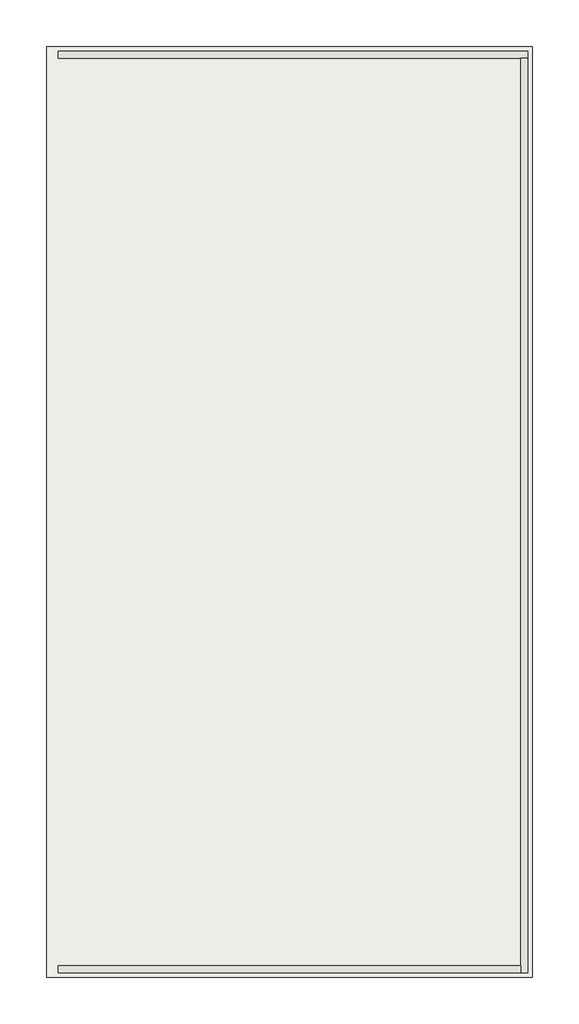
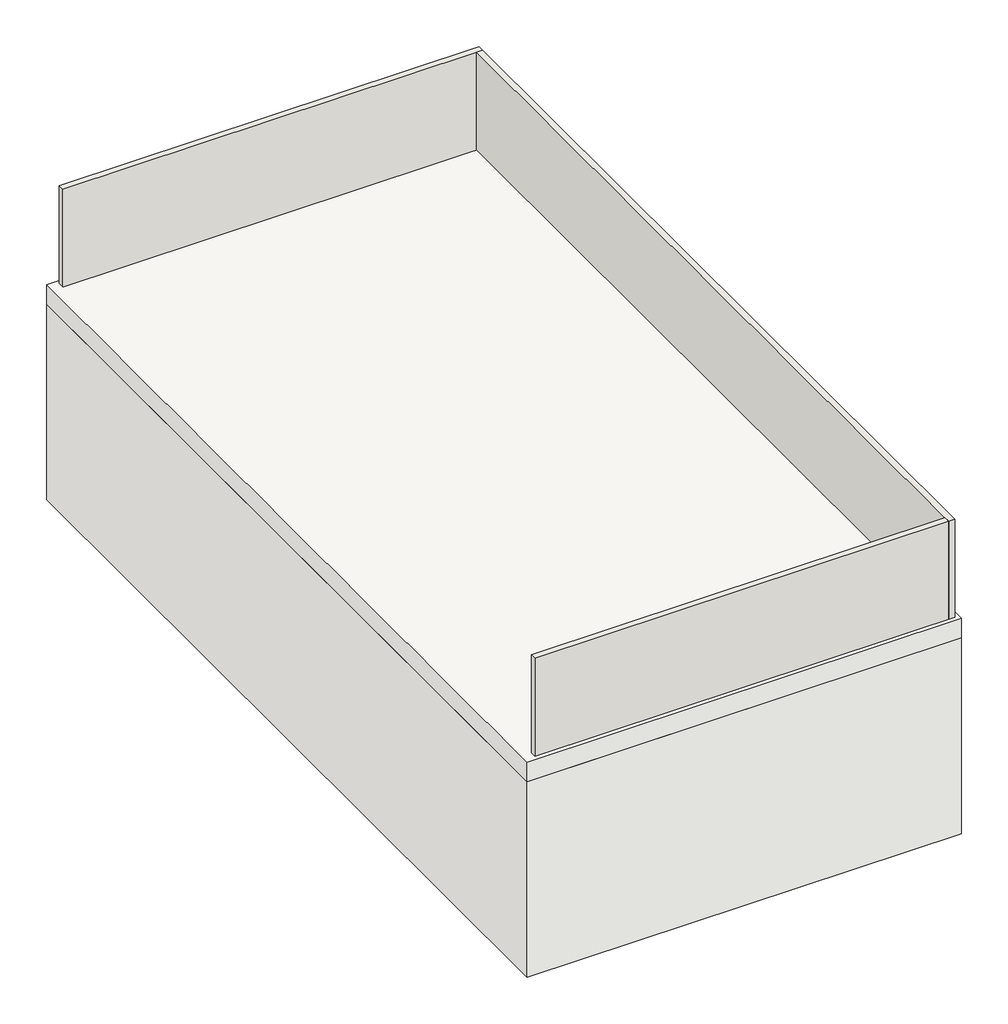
# One storey: 3 walls, 2 slabs.
"""IFC4 building model written with IfcOpenShell, lengths in millimetres."""

from ifc_helpers import new_model, si_unit, frame, origin, place, context, project, spatial, polyline, outline, extrude, faceted_brep, element, save

model = new_model("IFC4")

# Units and contexts
model_context = context("Model", 3, world=origin())
ifc_project = project(units=[si_unit("LENGTHUNIT", "METRE", prefix="MILLI")], contexts=[model_context])

# Site, building, storey
site = spatial("IfcSite", under=ifc_project)
building = spatial("IfcBuilding", under=site)
storey = spatial("IfcBuildingStorey", under=building, Name="- 2 - Sotto platea", Elevation=-3000.0)

# Slabs
placement = place(None, origin())
element("IfcSlab", 1, ObjectType="Magrone - 10 cm", at=placement, inside=storey, context=model_context, shape_type="SweptSolid", body=[
    extrude(outline(polyline([(1797.3707384, -11657.4457024), (1797.3707384, -15680.7761472), (-302.6292616, -15680.7761472), (-302.6292616, -11657.4457024), (1797.3707384, -11657.4457024)])), frame((0.0, 0.0, -3100.0), z_axis=(0.0, 0.0, 1.0), x_axis=(1.0, 0.0, 0.0)), (0.0, 0.0, 1.0), 100.0),
])
element("IfcSlab", 2, ObjectType="Terreno", at=placement, inside=storey, context=model_context, shape_type="SweptSolid", body=[
    extrude(outline(polyline([(1797.3707384, -11657.4457024), (1797.3707384, -15680.7761472), (-302.6292616, -15680.7761472), (-302.6292616, -11657.4457024), (1797.3707384, -11657.4457024)])), frame((0.0, 0.0, -4100.0), z_axis=(0.0, 0.0, 1.0), x_axis=(1.0, 0.0, 0.0)), (0.0, 0.0, 1.0), 1000.0),
])

# Walls
element("IfcWall", 3, ObjectType="cassero", at=placement, inside=storey, context=model_context, shape_type="Brep", body=[
    faceted_brep([(-252.6292616, -11707.4457024, -3000.0), (1747.3707384, -11707.4457024, -3000.0), (1777.3707384, -11707.4457024, -3000.0), (1777.3707384, -11707.4457024, -2500.0), (1747.3707384, -11707.4457024, -2500.0), (-252.6292616, -11707.4457024, -2500.0), (-252.6292616, -11677.4457024, -3000.0), (-252.6292616, -11677.4457024, -2500.0), (1777.3707384, -11677.4457024, -2500.0), (1777.3707384, -11677.4457024, -3000.0)], [[[0, 1, 2, 3, 4, 5]], [[6, 7, 8, 9]], [[2, 1, 0, 6, 9]], [[5, 4, 3, 8, 7]], [[0, 5, 7, 6]], [[3, 2, 9, 8]]]),
])
element("IfcWall", 4, ObjectType="cassero", at=placement, inside=storey, context=model_context, shape_type="Brep", body=[
    faceted_brep([(1747.3707384, -11707.4457024, -3000.0), (1747.3707384, -15630.7761472, -3000.0), (1747.3707384, -15660.7761472, -3000.0), (1747.3707384, -15660.7761472, -2500.0), (1747.3707384, -15630.7761472, -2500.0), (1747.3707384, -11707.4457024, -2500.0), (1777.3707384, -11707.4457024, -3000.0), (1777.3707384, -11707.4457024, -2500.0), (1777.3707384, -15660.7761472, -2500.0), (1777.3707384, -15660.7761472, -3000.0)], [[[0, 1, 2, 3, 4, 5]], [[6, 7, 8, 9]], [[2, 1, 0, 6, 9]], [[5, 4, 3, 8, 7]], [[0, 5, 7, 6]], [[3, 2, 9, 8]]]),
])
element("IfcWall", 5, ObjectType="cassero", at=placement, inside=storey, context=model_context, shape_type="SweptSolid", body=[
    extrude(outline(polyline([(-252.6292616, -15630.7761472), (1747.3707384, -15630.7761472), (1747.3707384, -15660.7761472), (-252.6292616, -15660.7761472), (-252.6292616, -15630.7761472)])), frame((0.0, 0.0, -3000.0), z_axis=(0.0, 0.0, 1.0), x_axis=(1.0, 0.0, 0.0)), (0.0, 0.0, 1.0), 500.0),
])

save(model, "model.ifc")
